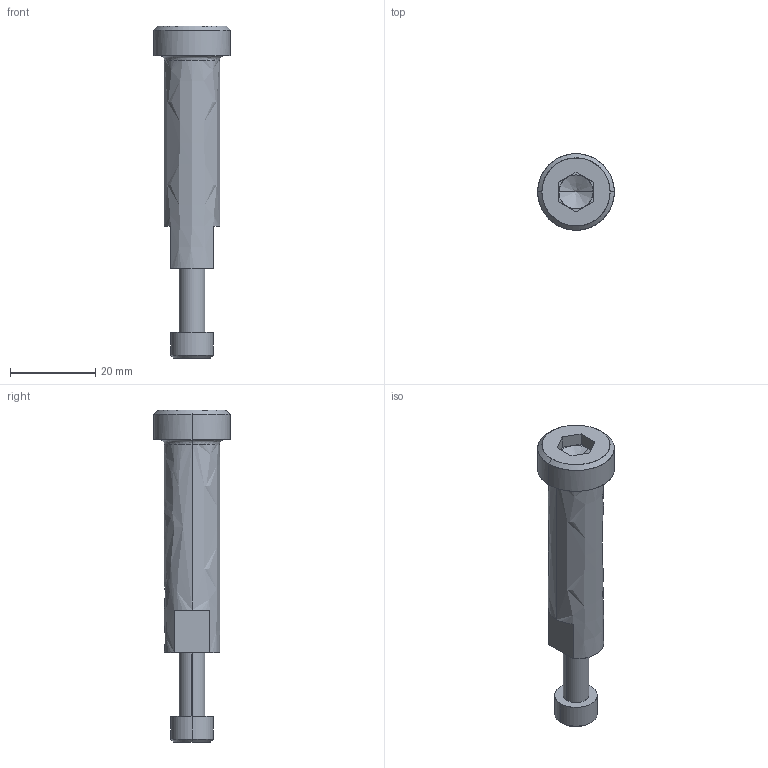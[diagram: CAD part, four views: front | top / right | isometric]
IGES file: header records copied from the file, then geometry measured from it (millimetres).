
Global section: file name: E:\UnigraphicsGraphicData\MISUMI_PRESS-PARTS\IGES\3d_sbtl13-50-30_05172_r00.igs; native system: NX V5.0; preprocessor: UGS NX IGES V5.0; author: MISUMI; date: 20110105.162503; units: millimetre
Bounding box: 18 x 18 x 78 mm (x, y, z)
Surface area: 4284.1 mm2 (no closed solid volume)
Topology: 0 solids, 0 shells, 54 faces, 298 edges, 294 vertices
Faces by surface type: bspline 54
